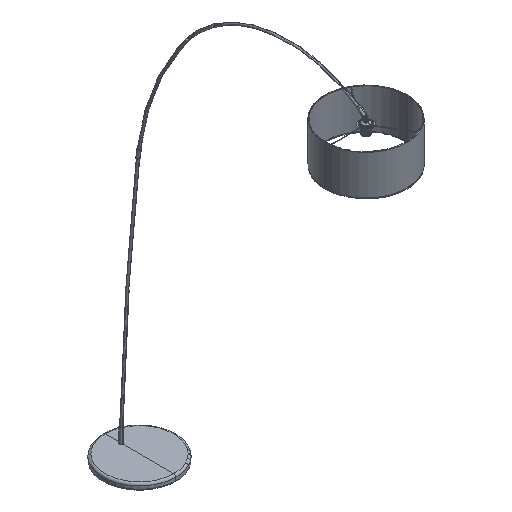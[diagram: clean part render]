
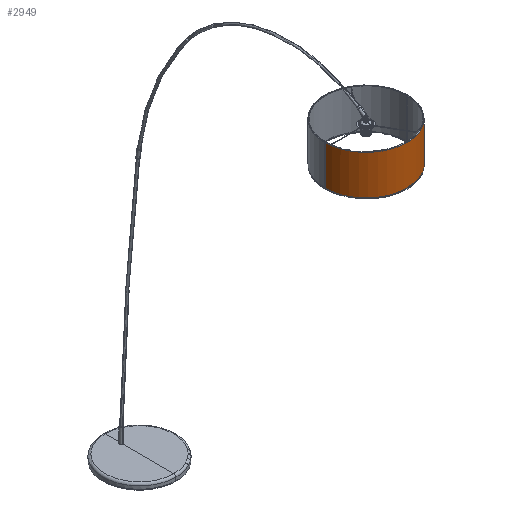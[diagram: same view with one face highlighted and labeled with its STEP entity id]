
A CAD part, isometric view. The second image highlights one B-rep face of the part: STEP entity #2949.
In plain terms, the highlighted cylindrical face has radius 200 mm (diameter 400 mm), a partial arc.
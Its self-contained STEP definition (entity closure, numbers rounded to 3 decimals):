
#130=B_SPLINE_CURVE_WITH_KNOTS('',3,(#7434,#7435,#7436,#7437,#7438,#7439,
#7440,#7441,#7442,#7443,#7444,#7445,#7446,#7447,#7448,#7449),
 .UNSPECIFIED.,.F.,.F.,(4,1,1,1,1,1,1,1,1,1,1,1,1,4),(0.,0.077,
0.154,0.231,0.308,0.385,
0.462,0.538,0.615,0.692,
0.769,0.846,0.923,1.),.UNSPECIFIED.);
#131=B_SPLINE_CURVE_WITH_KNOTS('',3,(#7450,#7451,#7452,#7453,#7454,#7455,
#7456,#7457,#7458,#7459,#7460,#7461,#7462,#7463,#7464,#7465),
 .UNSPECIFIED.,.F.,.F.,(4,1,1,1,1,1,1,1,1,1,1,1,1,4),(0.,0.077,
0.154,0.231,0.308,0.385,
0.462,0.538,0.615,0.692,
0.769,0.846,0.923,1.),.UNSPECIFIED.);
#423=FACE_OUTER_BOUND('',#641,.T.);
#641=EDGE_LOOP('',(#2570,#2571,#2572,#2573));
#817=LINE('',#7414,#990);
#818=LINE('',#7432,#991);
#990=VECTOR('',#4261,304.8);
#991=VECTOR('',#4262,304.8);
#1387=VERTEX_POINT('',#7395);
#1388=VERTEX_POINT('',#7396);
#1389=VERTEX_POINT('',#7413);
#1390=VERTEX_POINT('',#7415);
#1781=EDGE_CURVE('',#1389,#1387,#817,.T.);
#1783=EDGE_CURVE('',#1388,#1390,#818,.T.);
#1784=EDGE_CURVE('',#1388,#1387,#130,.T.);
#1785=EDGE_CURVE('',#1389,#1390,#131,.T.);
#2570=ORIENTED_EDGE('',*,*,#1784,.F.);
#2571=ORIENTED_EDGE('',*,*,#1783,.T.);
#2572=ORIENTED_EDGE('',*,*,#1785,.F.);
#2573=ORIENTED_EDGE('',*,*,#1781,.T.);
#2745=CYLINDRICAL_SURFACE('',#3343,200.);
#2949=ADVANCED_FACE('',(#423),#2745,.T.);
#3343=AXIS2_PLACEMENT_3D('',#7433,#4263,#4264);
#4261=DIRECTION('',(0.,0.,-1.));
#4262=DIRECTION('',(0.,0.,1.));
#4263=DIRECTION('center_axis',(0.,0.,-1.));
#4264=DIRECTION('ref_axis',(-1.,0.,0.));
#7395=CARTESIAN_POINT('',(200.,0.,2.));
#7396=CARTESIAN_POINT('',(-200.,0.,2.));
#7413=CARTESIAN_POINT('',(200.,0.,198.));
#7414=CARTESIAN_POINT('',(200.,0.,198.));
#7415=CARTESIAN_POINT('',(-200.,0.,198.));
#7432=CARTESIAN_POINT('',(-200.,0.,2.));
#7433=CARTESIAN_POINT('Origin',(0.,0.,1702.626));
#7434=CARTESIAN_POINT('Ctrl Pts',(-200.,0.,2.));
#7435=CARTESIAN_POINT('Ctrl Pts',(-200.04,16.12,2.));
#7436=CARTESIAN_POINT('Ctrl Pts',(-196.069,48.327,2.));
#7437=CARTESIAN_POINT('Ctrl Pts',(-178.828,93.855,2.));
#7438=CARTESIAN_POINT('Ctrl Pts',(-151.165,133.921,2.));
#7439=CARTESIAN_POINT('Ctrl Pts',(-114.725,166.207,2.));
#7440=CARTESIAN_POINT('Ctrl Pts',(-71.615,188.832,2.));
#7441=CARTESIAN_POINT('Ctrl Pts',(-24.343,200.484,2.));
#7442=CARTESIAN_POINT('Ctrl Pts',(24.343,200.484,2.));
#7443=CARTESIAN_POINT('Ctrl Pts',(71.615,188.832,2.));
#7444=CARTESIAN_POINT('Ctrl Pts',(114.725,166.207,2.));
#7445=CARTESIAN_POINT('Ctrl Pts',(151.165,133.921,2.));
#7446=CARTESIAN_POINT('Ctrl Pts',(178.828,93.855,2.));
#7447=CARTESIAN_POINT('Ctrl Pts',(196.069,48.327,2.));
#7448=CARTESIAN_POINT('Ctrl Pts',(200.04,16.12,2.));
#7449=CARTESIAN_POINT('Ctrl Pts',(200.,0.,2.));
#7450=CARTESIAN_POINT('Ctrl Pts',(200.,0.,198.));
#7451=CARTESIAN_POINT('Ctrl Pts',(200.04,16.12,198.));
#7452=CARTESIAN_POINT('Ctrl Pts',(196.069,48.327,198.));
#7453=CARTESIAN_POINT('Ctrl Pts',(178.828,93.855,198.));
#7454=CARTESIAN_POINT('Ctrl Pts',(151.165,133.921,198.));
#7455=CARTESIAN_POINT('Ctrl Pts',(114.725,166.207,198.));
#7456=CARTESIAN_POINT('Ctrl Pts',(71.615,188.832,198.));
#7457=CARTESIAN_POINT('Ctrl Pts',(24.343,200.484,198.));
#7458=CARTESIAN_POINT('Ctrl Pts',(-24.343,200.484,198.));
#7459=CARTESIAN_POINT('Ctrl Pts',(-71.615,188.832,198.));
#7460=CARTESIAN_POINT('Ctrl Pts',(-114.725,166.207,198.));
#7461=CARTESIAN_POINT('Ctrl Pts',(-151.165,133.921,198.));
#7462=CARTESIAN_POINT('Ctrl Pts',(-178.828,93.855,198.));
#7463=CARTESIAN_POINT('Ctrl Pts',(-196.069,48.327,198.));
#7464=CARTESIAN_POINT('Ctrl Pts',(-200.04,16.12,198.));
#7465=CARTESIAN_POINT('Ctrl Pts',(-200.,0.,198.));
